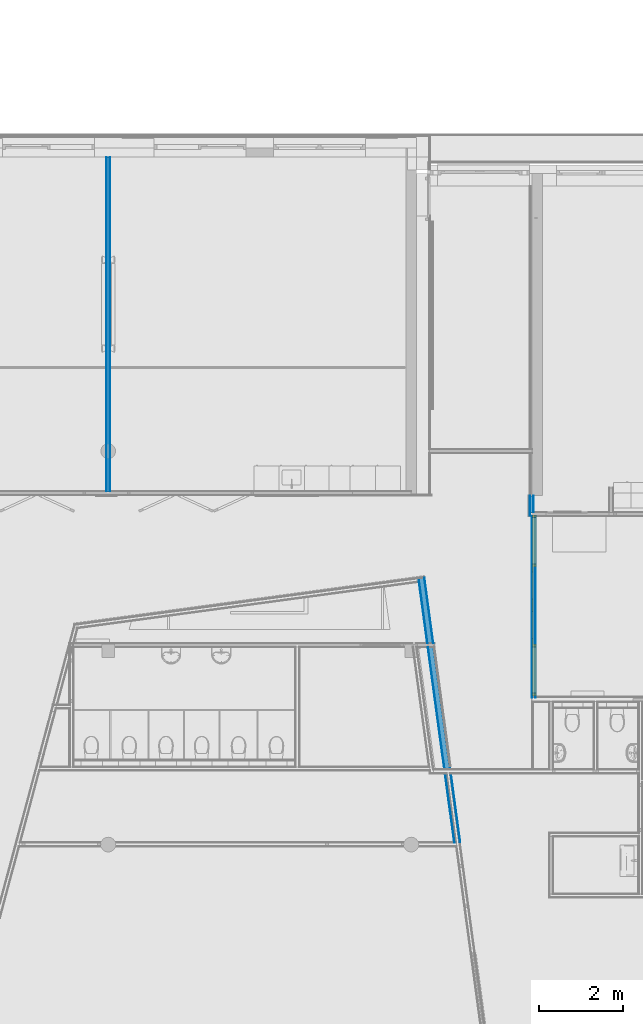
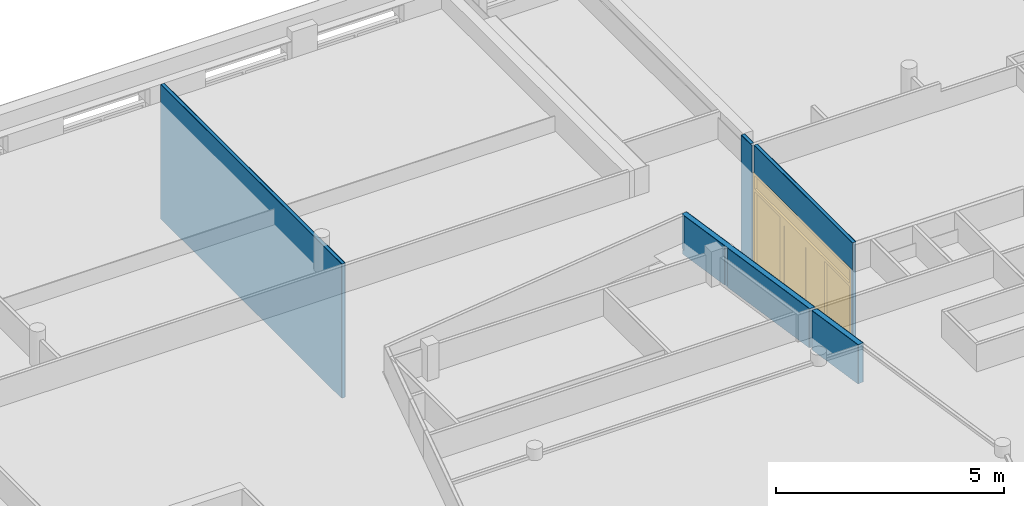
# One storey, part 64 of 167: 12 building element parts, 1 door, 1 opening, 4 elements without a shape of their own.
"""IFC2X3 building model written with IfcOpenShell, lengths in millimetres."""

import ifcopenshell
import ifcopenshell.guid

model = None  # the IFC model being written
_history = None  # IfcOwnerHistory: only IFC2X3 demands one
_inside = {}  # id of a spatial element -> (the spatial element, [elements in it])
_under = {}  # id of a project, library or spatial element -> (it, [spatial elements below it])
_declared = {}  # id of a project -> (the project, [libraries it declares])
_typed = {}  # id of a type object -> (the type object, [elements of that type])
_made_of = {}  # id of a material, layer set ... -> (it, [elements and type objects made of it])


def new_model(schema):
    """Start an empty IFC model of exactly this schema.

    Asked for "IFC4X3", IfcOpenShell would pick the latest addendum, in which some entities
    have other attributes; the version numbers below select the first issue.
    IFC2X3 requires an IfcOwnerHistory on every rooted entity: one is made here for all.
    """
    global model, _history
    if schema == "IFC4X3":
        model = ifcopenshell.file(schema_version=(4, 3, 0, 0))
    else:
        model = ifcopenshell.file(schema=schema)
    _inside.clear()
    _under.clear()
    _declared.clear()
    _typed.clear()
    _made_of.clear()
    _history = None
    if model.schema == "IFC2X3":
        org = make("IfcOrganization", Name="unknown")
        user = make(
            "IfcPersonAndOrganization",
            ThePerson=make("IfcPerson", FamilyName="unknown"),
            TheOrganization=org,
        )
        app = make(
            "IfcApplication",
            ApplicationDeveloper=org,
            Version="unknown",
            ApplicationFullName="unknown",
            ApplicationIdentifier="unknown",
        )
        _history = make(
            "IfcOwnerHistory",
            OwningUser=user,
            OwningApplication=app,
            ChangeAction="ADDED",
            CreationDate=0,
        )
    return model


def make(cls, **values):
    """One entity of the class cls with the attributes given. An attribute that is None is left unset."""
    return model.create_entity(
        cls, **{name: value for name, value in values.items() if value is not None}
    )


def entity(cls, *values):
    """Any entity or typed value of the class cls, its attributes in the order of the schema. None: left unset."""
    e = model.create_entity(cls)
    for i, value in enumerate(values):
        if value is not None:
            e[i] = value
    return e


def rooted(cls, **values):
    """An entity with a GlobalId (a new one), such as an element, a storey or a relation."""
    return make(cls, GlobalId=ifcopenshell.guid.new(), OwnerHistory=_history, **values)


def si_unit(unit_type, name, prefix=None):
    """IfcSIUnit, for example si_unit("LENGTHUNIT", "METRE", prefix="MILLI")."""
    return make("IfcSIUnit", UnitType=unit_type, Prefix=prefix, Name=name)


def converted_unit(unit_type, name, factor, base, dimensions=None, offset=None):
    """IfcConversionBasedUnit, such as the inch: factor (a typed value) times the base unit."""
    return make(
        "IfcConversionBasedUnit"
        if offset is None
        else "IfcConversionBasedUnitWithOffset",
        ConversionOffset=offset,
        Dimensions=None
        if dimensions is None
        else entity("IfcDimensionalExponents", *dimensions),
        UnitType=unit_type,
        Name=name,
        ConversionFactor=make(
            "IfcMeasureWithUnit", ValueComponent=factor, UnitComponent=base
        ),
    )


def derived_unit(unit_type, elements):
    """IfcDerivedUnit: a product of units, each with its exponent."""
    return make(
        "IfcDerivedUnit",
        Elements=[
            make("IfcDerivedUnitElement", Unit=unit, Exponent=power)
            for unit, power in elements
        ],
        UnitType=unit_type,
    )


def money_unit(currency):
    """IfcMonetaryUnit."""
    return make("IfcMonetaryUnit", Currency=currency)


def assignment(units):
    """IfcUnitAssignment: the units of a project."""
    return None if units is None else make("IfcUnitAssignment", Units=units)


def point(xyz):
    """IfcCartesianPoint."""
    return None if xyz is None else make("IfcCartesianPoint", Coordinates=xyz)


def direction(xyz):
    """IfcDirection."""
    return None if xyz is None else make("IfcDirection", DirectionRatios=xyz)


def frame(location, z_axis=None, x_axis=None):
    """IfcAxis2Placement3D, a coordinate frame: its origin and axes. An axis left out is left unset."""
    return make(
        "IfcAxis2Placement3D",
        Location=point(location),
        Axis=direction(z_axis),
        RefDirection=direction(x_axis),
    )


def origin_with_axes():
    """The frame at (0, 0, 0) with the z axis (0, 0, 1) and the x axis (1, 0, 0) written out."""
    return frame((0.0, 0.0, 0.0), z_axis=(0.0, 0.0, 1.0), x_axis=(1.0, 0.0, 0.0))


def place(relative_to, where):
    """IfcLocalPlacement: puts the frame where relative to a parent placement (None: the world)."""
    return make(
        "IfcLocalPlacement", PlacementRelTo=relative_to, RelativePlacement=where
    )


def context(
    kind, dimensions, precision=None, world=None, true_north=None, identifier=None
):
    """IfcGeometricRepresentationContext, for example the 3D "Model" context."""
    return make(
        "IfcGeometricRepresentationContext",
        ContextIdentifier=identifier,
        ContextType=kind,
        CoordinateSpaceDimension=dimensions,
        Precision=precision,
        WorldCoordinateSystem=world,
        TrueNorth=true_north,
    )


def subcontext(parent, identifier, kind, view, scale=None):
    """IfcGeometricRepresentationSubContext, for example "Body" below "Model"."""
    return make(
        "IfcGeometricRepresentationSubContext",
        ContextIdentifier=identifier,
        ContextType=kind,
        ParentContext=parent,
        TargetScale=scale,
        TargetView=view,
    )


def project(units=None, contexts=None):
    """IfcProject with its units and contexts."""
    return rooted(
        "IfcProject",
        Name="project",
        RepresentationContexts=contexts,
        UnitsInContext=assignment(units),
    )


def spatial(cls, under=None, at=None, **own):
    """A site, building, storey or space (cls), placed at a placement, below another one or the project."""
    s = rooted(cls, ObjectPlacement=at, **own)
    if under is not None:
        _under.setdefault(under.id(), (under, []))[1].append(s)
    return s


def faces_of(points, faces, orient=None, outer=None):
    """IfcFace entities. A face is a list of loops; a loop is a list of indices into points, from 0.

    orient and outer hold one flag for each loop. By default every Orientation is true, the
    first loop of a face is its IfcFaceOuterBound and the others are IfcFaceBound.
    """
    made = []
    for i, loops in enumerate(faces):
        bounds = []
        for j, loop in enumerate(loops):
            is_outer = j == 0 if outer is None else outer[i][j]
            bounds.append(
                make(
                    "IfcFaceOuterBound" if is_outer else "IfcFaceBound",
                    Bound=make("IfcPolyLoop", Polygon=[points[k] for k in loop]),
                    Orientation=True if orient is None else orient[i][j],
                )
            )
        made.append(make("IfcFace", Bounds=bounds))
    return made


def open_shell(faces, orient=None, outer=None):
    """The faces of one IfcOpenShell. surface_model builds it on its shared points."""
    return ("IfcOpenShell", faces, orient, outer)


def faceted_brep(points, faces, orient=None, outer=None, voids=None):
    """IfcFacetedBrep: a solid bounded by flat faces; with voids (closed shells), ...WithVoids."""
    shared = [point(p) for p in points]
    hull = make("IfcClosedShell", CfsFaces=faces_of(shared, faces, orient, outer))
    if voids is None:
        return make("IfcFacetedBrep", Outer=hull)
    return make(
        "IfcFacetedBrepWithVoids",
        Outer=hull,
        Voids=[
            make(cls, CfsFaces=faces_of(shared, fs, o, b)) for cls, fs, o, b in voids
        ],
    )


def surface_model(cls, points, shells):
    """IfcFaceBasedSurfaceModel or IfcShellBasedSurfaceModel (cls): surfaces that need not close."""
    shared = [point(p) for p in points]
    made = [make(c, CfsFaces=faces_of(shared, fs, o, b)) for c, fs, o, b in shells]
    if cls == "IfcFaceBasedSurfaceModel":
        return make(cls, FbsmFaces=made)
    return make(cls, SbsmBoundary=made)


def shape(context_of_items, identifier, shape_type, items):
    """IfcShapeRepresentation: the items that make up one representation, for example the "Body"."""
    return make(
        "IfcShapeRepresentation",
        ContextOfItems=context_of_items,
        RepresentationIdentifier=identifier,
        RepresentationType=shape_type,
        Items=items,
    )


def material(Name=None, Category=None):
    """IfcMaterial."""
    return make("IfcMaterial", Name=Name, Category=Category)


def made_of(thing, what):
    """Note that an element or type object is made of a material, layer set ...; save() writes the relation."""
    if what is not None:
        _made_of.setdefault(what.id(), (what, []))[1].append(thing)
    return thing


def type_object(cls, material=None, **own):
    """A type object (cls), such as IfcWallType, which elements share."""
    return made_of(rooted(cls, **own), material)


def element(
    cls,
    number,
    at=None,
    inside=None,
    cuts=None,
    type_object=None,
    material=None,
    context=None,
    identifier="Body",
    shape_type=None,
    held_by="IfcProductDefinitionShape",
    body=None,
    shapes=None,
    **own,
):
    """One element of the class cls, such as IfcWall. Its Tag is "e" and its number.

    at: its placement. inside: the storey or other place that contains it. cuts: it is an
    opening in that element (IfcRelVoidsElement). A single representation is given by context,
    identifier, shape_type and body (its items); several are given by shapes. held_by: the class
    of the entity that holds the representations. save() writes the other relations.
    """
    e = rooted(cls, Tag="e%d" % number, ObjectPlacement=at, **own)
    if body is not None:
        shapes = [shape(context, identifier, shape_type, body)]
    if shapes is not None:
        e.Representation = make(held_by, Representations=shapes)
    if inside is not None:
        _inside.setdefault(inside.id(), (inside, []))[1].append(e)
    if cuts is not None:
        rooted(
            "IfcRelVoidsElement", RelatingBuildingElement=cuts, RelatedOpeningElement=e
        )
    if type_object is not None:
        _typed.setdefault(type_object.id(), (type_object, []))[1].append(e)
    return made_of(e, material)


def fill(opening, filler):
    """IfcRelFillsElement: the door or window that sits in an opening."""
    return rooted(
        "IfcRelFillsElement",
        RelatingOpeningElement=opening,
        RelatedBuildingElement=filler,
    )


def aggregate(whole, parts):
    """IfcRelAggregates: a whole, such as a stair, and the parts it consists of."""
    return rooted("IfcRelAggregates", RelatingObject=whole, RelatedObjects=parts)


def save(model, path):
    """Write the relations noted so far, then the file.

    IfcRelAggregates (storeys below a building ...), IfcRelContainedInSpatialStructure (elements
    in a storey), IfcRelDefinesByType, IfcRelAssociatesMaterial and IfcRelDeclares: one each for
    every whole, place, type object, material and project.
    """
    for whole, parts in _under.values():
        aggregate(whole, parts)
    for where, things in _inside.values():
        rooted(
            "IfcRelContainedInSpatialStructure",
            RelatedElements=things,
            RelatingStructure=where,
        )
    for kind, things in _typed.values():
        rooted("IfcRelDefinesByType", RelatedObjects=things, RelatingType=kind)
    for what, things in _made_of.values():
        rooted("IfcRelAssociatesMaterial", RelatedObjects=things, RelatingMaterial=what)
    for by, libraries in _declared.values():
        rooted("IfcRelDeclares", RelatingContext=by, RelatedDefinitions=libraries)
    model.write(path)


model = new_model("IFC2X3")

# Units and contexts
model_context = context("Model", 3, precision=0.01, world=origin_with_axes(), true_north=direction((0.0, 1.0)))
plan_context = context("Plan", 3, precision=0.01, world=origin_with_axes(), true_north=direction((0.0, 1.0)))
body_context = subcontext(model_context, "Body", "Model", "MODEL_VIEW")
ifc_project = project(units=[si_unit("LENGTHUNIT", "METRE", prefix="MILLI"), si_unit("AREAUNIT", "SQUARE_METRE"), si_unit("VOLUMEUNIT", "CUBIC_METRE"), converted_unit("PLANEANGLEUNIT", "DEGREE", entity("IfcPlaneAngleMeasure", 0.0174532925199), si_unit("PLANEANGLEUNIT", "RADIAN"), dimensions=[0, 0, 0, 0, 0, 0, 0]), si_unit("SOLIDANGLEUNIT", "STERADIAN"), money_unit("EUR"), converted_unit("TIMEUNIT", "Year", entity("IfcTimeMeasure", 31556926.0), si_unit("TIMEUNIT", "SECOND"), dimensions=[0, 0, 1, 0, 0, 0, 0]), si_unit("MASSUNIT", "GRAM", prefix="KILO"), si_unit("THERMODYNAMICTEMPERATUREUNIT", "DEGREE_CELSIUS"), si_unit("LUMINOUSINTENSITYUNIT", "LUMEN"), si_unit("ENERGYUNIT", "JOULE", prefix="MEGA"), derived_unit("THERMALCONDUCTANCEUNIT", [(si_unit("POWERUNIT", "WATT"), 1), (si_unit("LENGTHUNIT", "METRE"), -1), (si_unit("THERMODYNAMICTEMPERATUREUNIT", "KELVIN"), -1)]), derived_unit("SPECIFICHEATCAPACITYUNIT", [(si_unit("ENERGYUNIT", "JOULE"), 1), (si_unit("MASSUNIT", "GRAM", prefix="KILO"), -1), (si_unit("THERMODYNAMICTEMPERATUREUNIT", "KELVIN"), -1)]), derived_unit("MASSDENSITYUNIT", [(si_unit("MASSUNIT", "GRAM", prefix="KILO"), 1), (si_unit("VOLUMEUNIT", "CUBIC_METRE"), -1)])], contexts=[model_context, plan_context])

# Site, building, storey
site_placement = place(None, origin_with_axes())
site = spatial("IfcSite", under=ifc_project, at=site_placement, Name="Site", CompositionType="ELEMENT")
building_placement = place(site_placement, origin_with_axes())
building = spatial("IfcBuilding", under=site, at=building_placement, Name="Naam gebouw", CompositionType="ELEMENT")
storey_placement = place(building_placement, origin_with_axes())
storey = spatial("IfcBuildingStorey", under=building, at=storey_placement, Name="Begane grond", CompositionType="ELEMENT", Elevation=0.0)

# Door
door_style = type_object("IfcDoorStyle", Name="D2 bl zl2 24", ConstructionType="NOTDEFINED", OperationType="USERDEFINED", ParameterTakesPrecedence=False, Sizeable=False)
wall_3_placement = place(storey_placement, frame((24515.0000092, 37337.5, 0.0), z_axis=(0.0, 0.0, 1.0), x_axis=(0.0, 1.0, 0.0)))
opening_placement = place(wall_3_placement, frame((2200.0, 0.0, 0.0), z_axis=(0.0, 0.0, 1.0), x_axis=(1.0, 0.0, 0.0)))
door_placement = place(opening_placement, frame((-2150.0, 0.0, 0.0), z_axis=(0.0, 0.0, 1.0), x_axis=(1.0, 0.0, 0.0)))
door = element("IfcDoor", 1, at=door_placement, inside=storey, type_object=door_style, Name="32_Deur_Hi-24", ObjectType="DOOR", OverallHeight=2800.0, OverallWidth=4300.0, context=body_context, shape_type="SurfaceModel", body=[
    faceted_brep([(4300.0, 50.0, 0.0), (4300.0, -64.0, 0.0), (4233.0, -64.0, 0.0), (4233.0, 50.0, 0.0), (4300.0, 50.0, 2733.0), (4300.0, -64.0, 2733.0), (4233.0, -64.0, 2733.0), (4233.0, -64.0, 2375.0), (4233.0, -64.0, 2300.0), (4233.0, -64.0, 67.0), (4233.0, 50.0, 67.0), (4233.0, 50.0, 2300.0), (4233.0, 50.0, 2375.0), (4233.0, 50.0, 2733.0)], [[[0, 1, 2, 3]], [[4, 5, 1, 0]], [[1, 5, 6, 7, 8, 9, 2]], [[3, 2, 9, 10]], [[0, 3, 10, 11, 12, 13, 4]], [[13, 6, 5, 4]], [[12, 7, 6, 13]], [[11, 8, 7, 12]], [[10, 9, 8, 11]]]),
    faceted_brep([(3065.5, 10.0, 0.0), (3065.5, -64.0, 0.0), (3065.5, -64.0, 2300.0), (3065.5, 10.0, 2300.0), (3090.5, 10.0, 0.0), (3090.5, 50.0, 0.0), (3132.5, 50.0, 0.0), (3132.5, -64.0, 0.0), (3132.5, -64.0, 67.0), (3132.5, -64.0, 2300.0), (3090.5, 10.0, 2300.0), (3132.5, 50.0, 2300.0), (3090.5, 50.0, 2300.0), (3132.5, 50.0, 67.0)], [[[0, 1, 2, 3]], [[4, 5, 6, 7, 1, 0]], [[7, 8, 9, 2, 1]], [[10, 3, 2, 9, 11, 12]], [[10, 4, 0, 3]], [[12, 5, 4, 10]], [[12, 11, 13, 6, 5]], [[6, 13, 8, 7]], [[13, 11, 9, 8]]]),
    faceted_brep([(4233.0, 50.0, 67.0), (4233.0, -64.0, 67.0), (4233.0, -64.0, 0.0), (4233.0, 50.0, 0.0), (3132.5, 50.0, 67.0), (3132.5, -64.0, 67.0), (3132.5, -64.0, 0.0), (3132.5, 50.0, 0.0)], [[[0, 1, 2, 3]], [[4, 5, 1, 0]], [[1, 5, 6, 2]], [[3, 2, 6, 7]], [[0, 3, 7, 4]], [[7, 6, 5, 4]]]),
    faceted_brep([(0.0, 50.0, 0.0), (0.0, -64.0, 0.0), (0.0, -64.0, 2733.0), (0.0, 50.0, 2733.0), (67.0, 50.0, 0.0), (67.0, -64.0, 0.0), (67.0, -64.0, 67.0), (67.0, -64.0, 2300.0), (67.0, -64.0, 2375.0), (67.0, -64.0, 2733.0), (67.0, 50.0, 2733.0), (67.0, 50.0, 2375.0), (67.0, 50.0, 2300.0), (67.0, 50.0, 67.0)], [[[0, 1, 2, 3]], [[4, 5, 1, 0]], [[1, 5, 6, 7, 8, 9, 2]], [[3, 2, 9, 10]], [[0, 3, 10, 11, 12, 13, 4]], [[13, 6, 5, 4]], [[12, 7, 6, 13]], [[11, 8, 7, 12]], [[10, 9, 8, 11]]]),
    faceted_brep([(1209.5, 10.0, 2300.0), (1209.5, 50.0, 2300.0), (1159.5, 50.0, 2300.0), (1159.5, -64.0, 2300.0), (1234.5, -64.0, 2300.0), (1234.5, 10.0, 2300.0), (1209.5, 10.0, 0.0), (1209.5, 50.0, 0.0), (1159.5, 50.0, 0.0), (1159.5, 50.0, 67.0), (1159.5, -64.0, 67.0), (1234.5, -64.0, 0.0), (1159.5, -64.0, 0.0), (1234.5, 10.0, 0.0)], [[[0, 1, 2, 3, 4, 5]], [[0, 6, 7, 1]], [[7, 8, 9, 2, 1]], [[2, 9, 10, 3]], [[11, 4, 3, 10, 12]], [[5, 4, 11, 13]], [[5, 13, 6, 0]], [[6, 13, 11, 12, 8, 7]], [[9, 8, 12, 10]]]),
    faceted_brep([(1159.5, 50.0, 67.0), (1159.5, -64.0, 67.0), (1159.5, -64.0, 0.0), (1159.5, 50.0, 0.0), (67.0, 50.0, 67.0), (67.0, -64.0, 67.0), (67.0, -64.0, 0.0), (67.0, 50.0, 0.0)], [[[0, 1, 2, 3]], [[4, 5, 1, 0]], [[1, 5, 6, 2]], [[3, 2, 6, 7]], [[0, 3, 7, 4]], [[7, 6, 5, 4]]]),
    faceted_brep([(4300.0, 50.0, 2800.0), (4300.0, -64.0, 2800.0), (4300.0, -64.0, 2733.0), (4300.0, 50.0, 2733.0), (0.0, 50.0, 2800.0), (0.0, -64.0, 2800.0), (0.0, -64.0, 2733.0), (67.0, -64.0, 2733.0), (4233.0, -64.0, 2733.0), (4233.0, 50.0, 2733.0), (67.0, 50.0, 2733.0), (0.0, 50.0, 2733.0)], [[[0, 1, 2, 3]], [[4, 5, 1, 0]], [[1, 5, 6, 7, 8, 2]], [[3, 2, 8, 9]], [[0, 3, 9, 10, 11, 4]], [[11, 6, 5, 4]], [[10, 7, 6, 11]], [[9, 8, 7, 10]]]),
    faceted_brep([(3090.5, 50.0, 2325.0), (1209.5, 50.0, 2325.0), (1209.5, 50.0, 2300.0), (1159.5, 50.0, 2300.0), (67.0, 50.0, 2300.0), (67.0, 50.0, 2375.0), (4233.0, 50.0, 2375.0), (4233.0, 50.0, 2300.0), (3132.5, 50.0, 2300.0), (3090.5, 50.0, 2300.0), (3090.5, 10.0, 2325.0), (1209.5, 10.0, 2325.0), (1209.5, 10.0, 2300.0), (1234.5, 10.0, 2300.0), (1234.5, -64.0, 2300.0), (1159.5, -64.0, 2300.0), (67.0, -64.0, 2300.0), (67.0, -64.0, 2375.0), (4233.0, -64.0, 2375.0), (4233.0, -64.0, 2300.0), (3132.5, -64.0, 2300.0), (3090.5, 10.0, 2300.0), (3065.5, -64.0, 2300.0), (3065.5, 10.0, 2300.0)], [[[0, 1, 2, 3, 4, 5, 6, 7, 8, 9]], [[0, 10, 11, 1]], [[1, 11, 12, 2]], [[12, 13, 14, 15, 3, 2]], [[4, 3, 15, 16]], [[5, 4, 16, 17]], [[6, 5, 17, 18]], [[7, 6, 18, 19]], [[8, 7, 19, 20]], [[21, 9, 8, 20, 22, 23]], [[9, 21, 10, 0]], [[12, 11, 10, 21, 23, 13]], [[23, 22, 14, 13]], [[16, 15, 14, 22, 20, 19, 18, 17]]]),
    faceted_brep([(1209.5, 50.0, 300.0), (1359.5, 50.0, 300.0), (1359.5, 10.0, 300.0), (1209.5, 10.0, 300.0), (1209.5, 50.0, 2175.0), (1359.5, 50.0, 2175.0), (1359.5, 10.0, 2175.0), (1209.5, 10.0, 2175.0)], [[[0, 1, 2, 3]], [[0, 4, 5, 1]], [[1, 5, 6, 2]], [[3, 2, 6, 7]], [[4, 0, 3, 7]], [[5, 4, 7, 6]]]),
    faceted_brep([(2150.0, 50.0, 300.0), (2150.0, 50.0, 2175.0), (2150.0, 10.0, 2175.0), (2150.0, 10.0, 300.0), (2000.0, 50.0, 300.0), (2000.0, 50.0, 2175.0), (2000.0, 10.0, 2175.0), (2000.0, 10.0, 300.0)], [[[0, 1, 2, 3]], [[0, 4, 5, 1]], [[1, 5, 6, 2]], [[3, 2, 6, 7]], [[4, 0, 3, 7]], [[5, 4, 7, 6]]]),
    faceted_brep([(1209.5, 50.0, 0.0), (2150.0, 50.0, 0.0), (2150.0, 10.0, 0.0), (1209.5, 10.0, 0.0), (1209.5, 50.0, 300.0), (1359.5, 50.0, 300.0), (2000.0, 50.0, 300.0), (2150.0, 50.0, 300.0), (2150.0, 10.0, 300.0), (2000.0, 10.0, 300.0), (1359.5, 10.0, 300.0), (1209.5, 10.0, 300.0)], [[[0, 1, 2, 3]], [[0, 4, 5, 6, 7, 1]], [[1, 7, 8, 2]], [[3, 2, 8, 9, 10, 11]], [[4, 0, 3, 11]], [[5, 4, 11, 10]], [[6, 5, 10, 9]], [[7, 6, 9, 8]]]),
    faceted_brep([(1209.5, 50.0, 2325.0), (1209.5, 50.0, 2175.0), (1209.5, 10.0, 2175.0), (1209.5, 10.0, 2325.0), (2150.0, 50.0, 2325.0), (2150.0, 50.0, 2175.0), (2000.0, 50.0, 2175.0), (1359.5, 50.0, 2175.0), (1359.5, 10.0, 2175.0), (2000.0, 10.0, 2175.0), (2150.0, 10.0, 2175.0), (2150.0, 10.0, 2325.0)], [[[0, 1, 2, 3]], [[0, 4, 5, 6, 7, 1]], [[1, 7, 8, 2]], [[3, 2, 8, 9, 10, 11]], [[4, 0, 3, 11]], [[5, 4, 11, 10]], [[6, 5, 10, 9]], [[7, 6, 9, 8]]]),
    surface_model("IfcShellBasedSurfaceModel", [(1359.5, 36.0, 300.0), (1359.5, 36.0, 2175.0), (2000.0, 36.0, 2175.0), (2000.0, 36.0, 300.0)], [open_shell([[[0, 1, 2, 3]]])]),
    surface_model("IfcShellBasedSurfaceModel", [(1359.5, 24.0, 300.0), (2000.0, 24.0, 300.0), (2000.0, 24.0, 2175.0), (1359.5, 24.0, 2175.0)], [open_shell([[[0, 1, 2, 3]]])]),
    faceted_brep([(3090.5, 50.0, 300.0), (3090.5, 10.0, 300.0), (2940.5, 10.0, 300.0), (2940.5, 50.0, 300.0), (3090.5, 50.0, 2175.0), (3090.5, 10.0, 2175.0), (2940.5, 10.0, 2175.0), (2940.5, 50.0, 2175.0)], [[[0, 1, 2, 3]], [[4, 5, 1, 0]], [[1, 5, 6, 2]], [[3, 2, 6, 7]], [[0, 3, 7, 4]], [[7, 6, 5, 4]]]),
    faceted_brep([(2150.0, 50.0, 300.0), (2150.0, 10.0, 300.0), (2150.0, 10.0, 2175.0), (2150.0, 50.0, 2175.0), (2300.0, 50.0, 300.0), (2300.0, 10.0, 300.0), (2300.0, 10.0, 2175.0), (2300.0, 50.0, 2175.0)], [[[0, 1, 2, 3]], [[4, 5, 1, 0]], [[1, 5, 6, 2]], [[3, 2, 6, 7]], [[0, 3, 7, 4]], [[7, 6, 5, 4]]]),
    faceted_brep([(3090.5, 50.0, 0.0), (3090.5, 10.0, 0.0), (2150.0, 10.0, 0.0), (2150.0, 50.0, 0.0), (3090.5, 50.0, 300.0), (3090.5, 10.0, 300.0), (2940.5, 10.0, 300.0), (2300.0, 10.0, 300.0), (2150.0, 10.0, 300.0), (2150.0, 50.0, 300.0), (2300.0, 50.0, 300.0), (2940.5, 50.0, 300.0)], [[[0, 1, 2, 3]], [[4, 5, 1, 0]], [[1, 5, 6, 7, 8, 2]], [[3, 2, 8, 9]], [[0, 3, 9, 10, 11, 4]], [[11, 6, 5, 4]], [[10, 7, 6, 11]], [[9, 8, 7, 10]]]),
    faceted_brep([(3090.5, 50.0, 2325.0), (3090.5, 10.0, 2325.0), (3090.5, 10.0, 2175.0), (3090.5, 50.0, 2175.0), (2150.0, 50.0, 2325.0), (2150.0, 10.0, 2325.0), (2150.0, 10.0, 2175.0), (2300.0, 10.0, 2175.0), (2940.5, 10.0, 2175.0), (2940.5, 50.0, 2175.0), (2300.0, 50.0, 2175.0), (2150.0, 50.0, 2175.0)], [[[0, 1, 2, 3]], [[4, 5, 1, 0]], [[1, 5, 6, 7, 8, 2]], [[3, 2, 8, 9]], [[0, 3, 9, 10, 11, 4]], [[11, 6, 5, 4]], [[10, 7, 6, 11]], [[9, 8, 7, 10]]]),
    surface_model("IfcShellBasedSurfaceModel", [(2940.5, 36.0, 300.0), (2300.0, 36.0, 300.0), (2300.0, 36.0, 2175.0), (2940.5, 36.0, 2175.0)], [open_shell([[[0, 1, 2, 3]]])]),
    surface_model("IfcShellBasedSurfaceModel", [(2940.5, 24.0, 300.0), (2940.5, 24.0, 2175.0), (2300.0, 24.0, 2175.0), (2300.0, 24.0, 300.0)], [open_shell([[[0, 1, 2, 3]]])]),
    surface_model("IfcShellBasedSurfaceModel", [(4233.0, -4.0, 2375.0), (67.0, -4.0, 2375.0), (67.0, -4.0, 2733.0), (4233.0, -4.0, 2733.0)], [open_shell([[[0, 1, 2, 3]]])]),
    surface_model("IfcShellBasedSurfaceModel", [(4233.0, -16.0, 2375.0), (4233.0, -16.0, 2733.0), (67.0, -16.0, 2733.0), (67.0, -16.0, 2375.0)], [open_shell([[[0, 1, 2, 3]]])]),
    surface_model("IfcShellBasedSurfaceModel", [(4233.0, -4.0, 67.0), (3132.5, -4.0, 67.0), (3132.5, -4.0, 2300.0), (4233.0, -4.0, 2300.0)], [open_shell([[[0, 1, 2, 3]]])]),
    surface_model("IfcShellBasedSurfaceModel", [(4233.0, -16.0, 67.0), (4233.0, -16.0, 2300.0), (3132.5, -16.0, 2300.0), (3132.5, -16.0, 67.0)], [open_shell([[[0, 1, 2, 3]]])]),
    surface_model("IfcShellBasedSurfaceModel", [(1159.5, -4.0, 67.0), (67.0, -4.0, 67.0), (67.0, -4.0, 2300.0), (1159.5, -4.0, 2300.0)], [open_shell([[[0, 1, 2, 3]]])]),
    surface_model("IfcShellBasedSurfaceModel", [(1159.5, -16.0, 67.0), (1159.5, -16.0, 2300.0), (67.0, -16.0, 2300.0), (67.0, -16.0, 67.0)], [open_shell([[[0, 1, 2, 3]]])]),
])

# Wall, building element parts
wall_type_1 = type_object("IfcWallType", Name="_TenW_22_Metalstud 100 enkel gipsvezelplaat 100", PredefinedType="NOTDEFINED")
wall_1_placement = place(storey_placement, frame((14400.0, 50400.0, -100.0), z_axis=(0.0, 0.0, 1.0), x_axis=(0.0, -1.0, 0.0)))
wall_1 = element("IfcWall", 2, at=wall_1_placement, inside=storey, type_object=wall_type_1, Name="22_Wand_Wand-x")
ifc_material_1 = material(Name="Gipsplaat watervast")
building_element_part_1_placement = place(wall_1_placement, origin_with_axes())
building_element_part_1 = element("IfcBuildingElementPart", 3, at=building_element_part_1_placement, material=ifc_material_1, Name="Gipsplaat watervast", context=body_context, shape_type="Brep", body=[
    faceted_brep([(8150.0, 50.0, 30.0), (214.0, 50.0, 30.0), (214.0, 50.0, 3629.99999752), (8150.0, 50.0, 3629.99999752), (214.0, 37.5, 30.0), (8150.0, 37.5, 30.0), (214.0, 37.5, 3629.99999752), (8150.0, 37.5, 3629.99999752)], [[[0, 1, 2, 3]], [[4, 1, 0, 5]], [[1, 4, 6, 2]], [[3, 2, 6, 7]], [[5, 0, 3, 7]], [[4, 5, 7, 6]]]),
])
ifc_material_2 = material(Name="Isolatie - Steenwol zacht")
building_element_part_2_placement = place(wall_1_placement, origin_with_axes())
building_element_part_2 = element("IfcBuildingElementPart", 4, at=building_element_part_2_placement, material=ifc_material_2, Name="Isolatie - Steenwol zacht", context=body_context, shape_type="Brep", body=[
    faceted_brep([(8162.5, 37.5, 30.0), (214.0, 37.5, 30.0), (214.0, 37.5, 3629.99999752), (8162.5, 37.5, 3629.99999752), (214.0, -37.5, 30.0), (8162.5, -37.5, 30.0), (214.0, -37.5, 3629.99999752), (8162.5, -37.5, 3629.99999752)], [[[0, 1, 2, 3]], [[4, 1, 0, 5]], [[1, 4, 6, 2]], [[3, 2, 6, 7]], [[5, 0, 3, 7]], [[4, 5, 7, 6]]]),
])
building_element_part_3_placement = place(wall_1_placement, origin_with_axes())
building_element_part_3 = element("IfcBuildingElementPart", 5, at=building_element_part_3_placement, material=ifc_material_1, Name="Gipsplaat watervast", context=body_context, shape_type="Brep", body=[
    faceted_brep([(8150.0, -37.5, 30.0), (214.0, -37.5, 30.0), (214.0, -37.5, 3629.99999752), (8150.0, -37.5, 3629.99999752), (214.0, -50.0, 30.0), (8150.0, -50.0, 30.0), (214.0, -50.0, 3629.99999752), (8150.0, -50.0, 3629.99999752)], [[[0, 1, 2, 3]], [[4, 1, 0, 5]], [[1, 4, 6, 2]], [[3, 2, 6, 7]], [[5, 0, 3, 7]], [[4, 5, 7, 6]]]),
])
aggregate(wall_1, [building_element_part_1, building_element_part_2, building_element_part_3])

wall_type_2 = type_object("IfcWallType", Name="_TenW_22_Metalstud 150 enkel gipsvezelplaat 150", PredefinedType="NOTDEFINED")
wall_2_placement = place(storey_placement, frame((21850.6549453, 40146.3342131, 2480.0), z_axis=(0.0, 0.0, 1.0), x_axis=(0.134213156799, -0.990952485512, 0.0)))
wall_2 = element("IfcWall", 6, at=wall_2_placement, inside=storey, type_object=wall_type_2, Name="22_Wand_Wand-x")
ifc_material_3 = material(Name="Gipsplaat")
building_element_part_4_placement = place(wall_2_placement, origin_with_axes())
building_element_part_4 = element("IfcBuildingElementPart", 7, at=building_element_part_4_placement, material=ifc_material_3, Name="Gipsplaat", context=body_context, shape_type="Brep", body=[
    faceted_brep([(-37.5, 75.0, 122.0), (-37.5, 75.0, 1050.0), (1531.04068426, 75.0, 1050.0), (1531.04068426, 75.0, 0.0), (0.0, 75.0, 0.0), (0.0, 75.0, 122.0), (-37.5, 62.5, 1050.0), (-37.5, 62.5, 122.0), (1529.34770253, 62.5, 1050.0), (1529.34770253, 62.5, 0.0), (0.0, 62.5, 0.0), (0.0, 62.5, 122.0)], [[[0, 1, 2, 3, 4, 5]], [[6, 1, 0, 7]], [[1, 6, 8, 2]], [[3, 2, 8, 9]], [[9, 10, 4, 3]], [[11, 5, 4, 10]], [[7, 0, 5, 11]], [[6, 7, 11, 10, 9, 8]]]),
    faceted_brep([(4662.22868815, 75.0, 1050.0), (6300.77451824, 75.0, 1050.0), (6300.77451824, 75.0, 0.0), (4662.22868815, 75.0, 0.0), (4660.53570667, 62.5, 1050.0), (6300.77451824, 62.5, 1050.0), (6300.77451824, 62.5, 0.0), (4660.53570667, 62.5, 0.0)], [[[0, 1, 2, 3]], [[4, 5, 1, 0]], [[6, 2, 1, 5]], [[3, 2, 6, 7]], [[0, 3, 7, 4]], [[7, 6, 5, 4]]]),
    faceted_brep([(1631.9536962, 75.0, 1050.0), (4561.31567649, 75.0, 1050.0), (4561.31567649, 75.0, 0.0), (1631.9536962, 75.0, 0.0), (1630.26071446, 62.5, 1050.0), (4559.62269501, 62.5, 1050.0), (4559.62269501, 62.5, 0.0), (1630.26071446, 62.5, 0.0)], [[[0, 1, 2, 3]], [[4, 5, 1, 0]], [[1, 5, 6, 2]], [[3, 2, 6, 7]], [[0, 3, 7, 4]], [[7, 6, 5, 4]]]),
])
ifc_material_4 = material(Name="Isolatie - Glaswol zacht")
building_element_part_5_placement = place(wall_2_placement, origin_with_axes())
building_element_part_5 = element("IfcBuildingElementPart", 8, at=building_element_part_5_placement, material=ifc_material_4, Name="Isolatie - Glaswol zacht", context=body_context, shape_type="Brep", body=[
    faceted_brep([(-37.5, 62.5, 122.0), (-37.5, 62.5, 1050.0), (4572.23682147, 62.5, 1050.0), (4572.23682147, 62.5, 0.0), (0.0, 62.5, 0.0), (0.0, 62.5, 122.0), (-37.5, -62.5, 1050.0), (-37.5, -62.5, 122.0), (4555.30700668, -62.5, 1050.0), (4555.30700668, -62.5, 0.0), (0.0, -62.5, 0.0), (0.0, -62.5, 122.0)], [[[0, 1, 2, 3, 4, 5]], [[6, 1, 0, 7]], [[1, 6, 8, 2]], [[3, 2, 8, 9]], [[9, 10, 4, 3]], [[11, 5, 4, 10]], [[7, 0, 5, 11]], [[6, 7, 11, 10, 9, 8]]]),
    faceted_brep([(4647.92158022, 62.5, 1050.0), (6300.77451824, 62.5, 1050.0), (6300.77451824, 62.5, 0.0), (4647.92158022, 62.5, 0.0), (4630.99176543, -62.5, 1050.0), (6300.77451824, -62.5, 1050.0), (6300.77451824, -62.5, 0.0), (4630.99176543, -62.5, 0.0)], [[[0, 1, 2, 3]], [[4, 5, 1, 0]], [[6, 2, 1, 5]], [[3, 2, 6, 7]], [[0, 3, 7, 4]], [[7, 6, 5, 4]]]),
])
building_element_part_6_placement = place(wall_2_placement, origin_with_axes())
building_element_part_6 = element("IfcBuildingElementPart", 9, at=building_element_part_6_placement, material=ifc_material_3, Name="Gipsplaat", context=body_context, shape_type="Brep", body=[
    faceted_brep([(50.0, -62.5, 122.0), (50.0, -62.5, 1050.0), (1512.41788516, -62.5, 1050.0), (1512.41788516, -62.5, 0.0), (0.0, -62.5, 0.0), (0.0, -62.5, 122.0), (50.0, -75.0, 1050.0), (50.0, -75.0, 122.0), (1510.72490342, -75.0, 1050.0), (1510.72490342, -75.0, 0.0), (0.0, -75.0, 0.0), (0.0, -75.0, 122.0)], [[[0, 1, 2, 3, 4, 5]], [[6, 1, 0, 7]], [[1, 6, 8, 2]], [[3, 2, 8, 9]], [[9, 10, 4, 3]], [[11, 5, 4, 10]], [[7, 0, 5, 11]], [[7, 11, 10, 9, 8, 6]]]),
    faceted_brep([(4643.60589189, -62.5, 1050.0), (6300.77451824, -62.5, 1050.0), (6300.77451824, -62.5, 0.0), (4643.60589189, -62.5, 0.0), (4641.91291041, -75.0, 1050.0), (6300.77451824, -75.0, 1050.0), (6300.77451824, -75.0, 0.0), (4641.91291041, -75.0, 0.0)], [[[0, 1, 2, 3]], [[4, 5, 1, 0]], [[6, 2, 1, 5]], [[3, 2, 6, 7]], [[0, 3, 7, 4]], [[7, 6, 5, 4]]]),
    faceted_brep([(1613.3308971, -62.5, 1050.0), (4542.69288023, -62.5, 1050.0), (4542.69288023, -62.5, 0.0), (1613.3308971, -62.5, 0.0), (1611.63791536, -75.0, 1050.0), (4540.99989875, -75.0, 1050.0), (4540.99989875, -75.0, 0.0), (1611.63791536, -75.0, 0.0)], [[[0, 1, 2, 3]], [[4, 5, 1, 0]], [[1, 5, 6, 2]], [[3, 2, 6, 7]], [[0, 3, 7, 4]], [[7, 6, 5, 4]]]),
])
aggregate(wall_2, [building_element_part_4, building_element_part_5, building_element_part_6])

# Wall, opening
wall_3 = element("IfcWall", 10, at=wall_3_placement, inside=storey, type_object=wall_type_1, Name="22_Wand_Wand-x")
opening = element("IfcOpeningElement", 11, at=opening_placement, cuts=wall_3, Name="32_Deur_Hi-24", context=body_context, shape_type="Brep", body=[
    faceted_brep([(-2150.0, 200.0, 2800.0), (-2150.0, 200.0, 0.0), (-2150.0, -100.0, 0.0), (-2150.0, -100.0, 2800.0), (2150.0, 200.0, 2800.0), (2150.0, 200.0, 0.0), (2150.0, -100.0, 0.0), (2150.0, -100.0, 2800.0)], [[[0, 1, 2, 3]], [[0, 4, 5, 1]], [[1, 5, 6, 2]], [[3, 2, 6, 7]], [[4, 0, 3, 7]], [[5, 4, 7, 6]]]),
])

fill(opening, door)

# Building element part
building_element_part_7_placement = place(wall_3_placement, origin_with_axes())
building_element_part_7 = element("IfcBuildingElementPart", 12, at=building_element_part_7_placement, material=ifc_material_1, Name="Gipsplaat watervast", context=body_context, shape_type="Brep", body=[
    faceted_brep([(50.0, 37.5, 0.0), (50.0, 37.5, 2800.0), (4312.5, 37.5, 2800.0), (4312.5, 37.5, 3530.0), (0.0, 37.5, 3530.0), (0.0, 37.5, 0.0), (50.0, 50.0, 0.0), (50.0, 50.0, 2800.0), (4312.5, 50.0, 2800.0), (4312.5, 50.0, 3530.0), (0.0, 50.0, 3530.0), (0.0, 50.0, 0.0)], [[[0, 1, 2, 3, 4, 5]], [[1, 0, 6, 7]], [[8, 2, 1, 7]], [[2, 8, 9, 3]], [[10, 4, 3, 9]], [[10, 11, 5, 4]], [[6, 0, 5, 11]], [[7, 6, 11, 10, 9, 8]]]),
])

building_element_part_8_placement = place(wall_3_placement, origin_with_axes())
building_element_part_8 = element("IfcBuildingElementPart", 13, at=building_element_part_8_placement, material=ifc_material_2, Name="Isolatie - Steenwol zacht", context=body_context, shape_type="Brep", body=[
    faceted_brep([(50.0, -37.5, 0.0), (50.0, -37.5, 2800.0), (4325.0, -37.5, 2800.0), (4325.0, -37.5, 3530.0), (0.0, -37.5, 3530.0), (0.0, -37.5, 0.0), (50.0, 37.5, 0.0), (50.0, 37.5, 2800.0), (4325.0, 37.5, 2800.0), (4325.0, 37.5, 3530.0), (0.0, 37.5, 3530.0), (0.0, 37.5, 0.0)], [[[0, 1, 2, 3, 4, 5]], [[1, 0, 6, 7]], [[8, 2, 1, 7]], [[2, 8, 9, 3]], [[10, 4, 3, 9]], [[10, 11, 5, 4]], [[6, 0, 5, 11]], [[7, 6, 11, 10, 9, 8]]]),
])

building_element_part_9_placement = place(wall_3_placement, origin_with_axes())
building_element_part_9 = element("IfcBuildingElementPart", 14, at=building_element_part_9_placement, material=ifc_material_1, Name="Gipsplaat watervast", context=body_context, shape_type="Brep", body=[
    faceted_brep([(50.0, -50.0, 0.0), (50.0, -50.0, 2800.0), (4312.5, -50.0, 2800.0), (4312.5, -50.0, 3530.0), (0.0, -50.0, 3530.0), (0.0, -50.0, 0.0), (50.0, -37.5, 0.0), (50.0, -37.5, 2800.0), (4312.5, -37.5, 2800.0), (4312.5, -37.5, 3530.0), (0.0, -37.5, 3530.0), (0.0, -37.5, 0.0)], [[[0, 1, 2, 3, 4, 5]], [[1, 0, 6, 7]], [[8, 2, 1, 7]], [[2, 8, 9, 3]], [[10, 4, 3, 9]], [[10, 11, 5, 4]], [[6, 0, 5, 11]], [[7, 6, 11, 10, 9, 8]]]),
])

aggregate(wall_3, [building_element_part_7, building_element_part_8, building_element_part_9])

# Wall, building element parts
wall_4_placement = place(storey_placement, frame((24465.0000092, 41700.0, -100.0), z_axis=(0.0, 0.0, 1.0), x_axis=(0.0, 1.0, 0.0)))
wall_4 = element("IfcWall", 15, at=wall_4_placement, inside=storey, type_object=wall_type_1, Name="22_Wand_Wand-x")
building_element_part_10_placement = place(wall_4_placement, origin_with_axes())
building_element_part_10 = element("IfcBuildingElementPart", 16, at=building_element_part_10_placement, material=ifc_material_1, Name="Gipsplaat watervast", context=body_context, shape_type="Brep", body=[
    faceted_brep([(-37.5, 37.5, 30.0), (439.851640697, 37.5, 30.0), (439.851640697, 37.5, 3629.99999752), (-37.5, 37.5, 3629.99999752), (439.851640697, 50.0, 30.0), (-37.5, 50.0, 30.0), (439.851640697, 50.0, 3629.99999752), (-37.5, 50.0, 3629.99999752)], [[[0, 1, 2, 3]], [[4, 1, 0, 5]], [[1, 4, 6, 2]], [[3, 2, 6, 7]], [[5, 0, 3, 7]], [[4, 5, 7, 6]]]),
])
building_element_part_11_placement = place(wall_4_placement, origin_with_axes())
building_element_part_11 = element("IfcBuildingElementPart", 17, at=building_element_part_11_placement, material=ifc_material_2, Name="Isolatie - Steenwol zacht", context=body_context, shape_type="Brep", body=[
    faceted_brep([(37.5, -37.5, 30.0), (439.851640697, -37.5, 30.0), (439.851640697, -37.5, 3629.99999752), (37.5, -37.5, 3629.99999752), (439.851640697, 37.5, 30.0), (37.5, 37.5, 30.0), (439.851640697, 37.5, 3629.99999752), (37.5, 37.5, 3629.99999752)], [[[0, 1, 2, 3]], [[4, 1, 0, 5]], [[1, 4, 6, 2]], [[3, 2, 6, 7]], [[5, 0, 3, 7]], [[4, 5, 7, 6]]]),
])
building_element_part_12_placement = place(wall_4_placement, origin_with_axes())
building_element_part_12 = element("IfcBuildingElementPart", 18, at=building_element_part_12_placement, material=ifc_material_1, Name="Gipsplaat watervast", context=body_context, shape_type="Brep", body=[
    faceted_brep([(50.0, -50.0, 30.0), (439.851640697, -50.0, 30.0), (439.851640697, -50.0, 3629.99999752), (50.0, -50.0, 3629.99999752), (439.851640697, -37.5, 30.0), (50.0, -37.5, 30.0), (439.851640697, -37.5, 3629.99999752), (50.0, -37.5, 3629.99999752)], [[[0, 1, 2, 3]], [[4, 1, 0, 5]], [[1, 4, 6, 2]], [[3, 2, 6, 7]], [[5, 0, 3, 7]], [[4, 5, 7, 6]]]),
])
aggregate(wall_4, [building_element_part_10, building_element_part_11, building_element_part_12])

save(model, "model.ifc")
